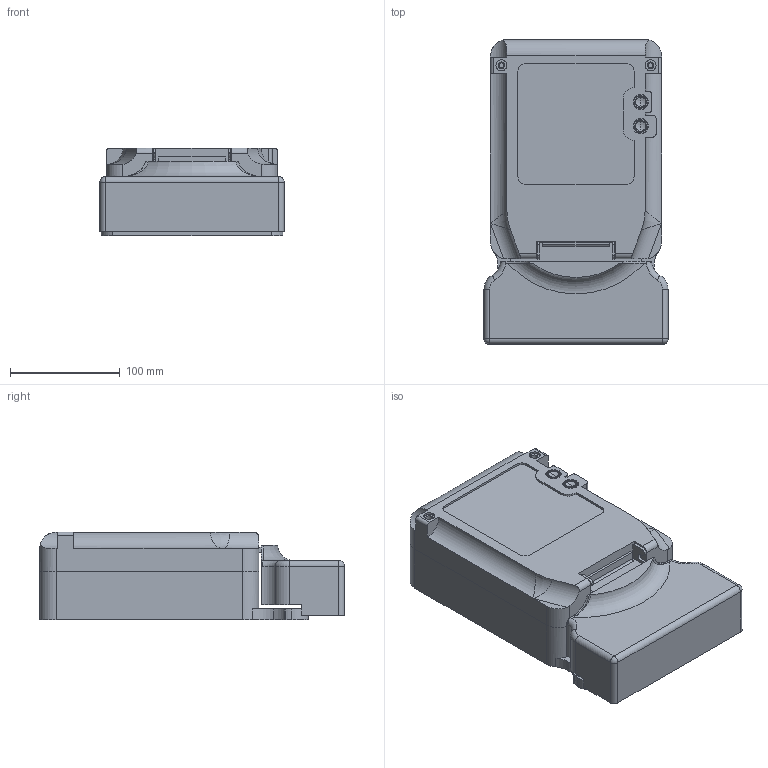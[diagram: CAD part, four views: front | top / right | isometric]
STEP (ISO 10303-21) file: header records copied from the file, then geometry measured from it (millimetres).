
FILE_DESCRIPTION (( 'STEP AP203' ), '1' );
FILE_NAME ('捘恦岍.STEP', '2012-06-07T12:01:48', ( 'Admin' ), ( '' ), 'SwSTEP 2.0', 'SolidWorks 2012', '' );
FILE_SCHEMA (( 'CONFIG_CONTROL_DESIGN' ));
Length unit declared in the file: millimetre
Products named in the file (7): 署赅_觐痫篑_305; 1; 捘恦岍; Êðûøêà; 扱闀罻_2_305; 扱闀罻_1_305; Êðûøêà_êëåììíàÿ_305
Assembly tree (6 placements, depth 3):
  捘恦岍
    1
    Êðûøêà
      署赅_觐痫篑_305
      Êðûøêà_êëåììíàÿ_305
      扱闀罻_1_305
      扱闀罻_2_305
Bounding box: 168 x 278 x 80 mm (x, y, z)
Volume: 433748.2 mm3; surface area: 310863.9 mm2
Topology: 5 solids, 5 shells, 503 faces, 1345 edges, 882 vertices
Faces by surface type: plane 254, cylinder 201, torus 18, cone 12, bspline 10, sphere 8
Entity records: 17316 total; most frequent: CARTESIAN_POINT 3800, DIRECTION 2715, ORIENTED_EDGE 2678, EDGE_CURVE 1339, AXIS2_PLACEMENT_3D 963, VERTEX_POINT 882, VECTOR 789, LINE 789
